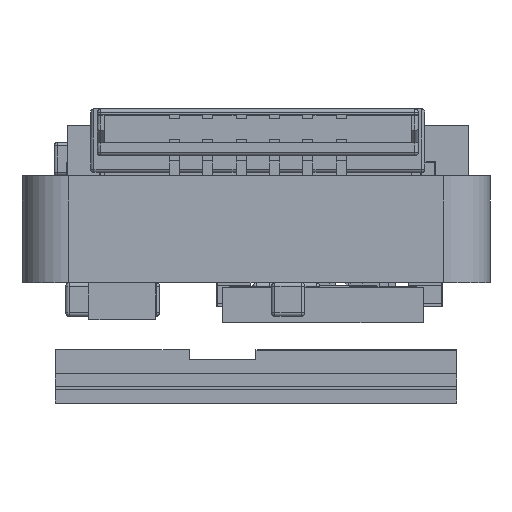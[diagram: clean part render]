
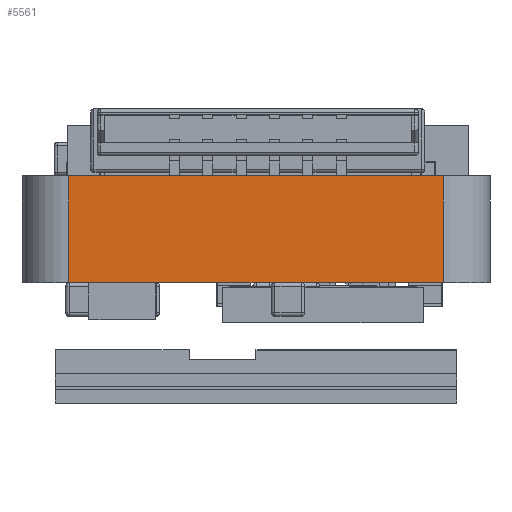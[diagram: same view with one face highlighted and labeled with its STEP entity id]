
A CAD part, left-side view. The second image highlights one B-rep face of the part: STEP entity #5561.
In plain terms, the highlighted planar face has unit normal (-1, 0, 0).
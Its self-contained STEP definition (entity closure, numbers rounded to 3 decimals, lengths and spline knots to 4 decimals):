
#4893=DIRECTION('',(0.,0.,1.));
#4894=VECTOR('',#4893,1.6);
#4895=CARTESIAN_POINT('',(0.2,-2.8001,-0.4773));
#4896=LINE('',#4895,#4894);
#5096=DIRECTION('',(0.,0.,-1.));
#5097=VECTOR('',#5096,1.6);
#5098=CARTESIAN_POINT('',(0.2,2.8,1.1227));
#5099=LINE('',#5098,#5097);
#5110=DIRECTION('',(0.,1.,0.));
#5111=VECTOR('',#5110,5.6001);
#5112=CARTESIAN_POINT('',(0.2,-2.8001,-0.4773));
#5113=LINE('',#5112,#5111);
#5117=DIRECTION('',(0.,-1.,0.));
#5118=VECTOR('',#5117,5.6001);
#5119=CARTESIAN_POINT('',(0.2,2.8,1.1227));
#5120=LINE('',#5119,#5118);
#5284=CARTESIAN_POINT('',(0.2,-2.8002,-0.4773));
#5285=VERTEX_POINT('',#5284);
#5286=CARTESIAN_POINT('',(0.2,-2.8001,1.1227));
#5287=VERTEX_POINT('',#5286);
#5332=CARTESIAN_POINT('',(0.2,2.8,1.1227));
#5333=CARTESIAN_POINT('',(0.2,2.8,-0.4773));
#5334=VERTEX_POINT('',#5332);
#5335=VERTEX_POINT('',#5333);
#5548=CARTESIAN_POINT('',(0.2,-2.8,0.));
#5549=DIRECTION('',(-1.,0.,0.));
#5550=DIRECTION('',(0.,1.,0.));
#5551=AXIS2_PLACEMENT_3D('',#5548,#5549,#5550);
#5552=PLANE('',#5551);
#5553=ORIENTED_EDGE('',*,*,#5361,.F.);
#5555=ORIENTED_EDGE('',*,*,#5554,.T.);
#5556=ORIENTED_EDGE('',*,*,#5538,.F.);
#5558=ORIENTED_EDGE('',*,*,#5557,.T.);
#5559=EDGE_LOOP('',(#5553,#5555,#5556,#5558));
#5560=FACE_OUTER_BOUND('',#5559,.F.);
#5561=ADVANCED_FACE('',(#5560),#5552,.T.);
#5361=EDGE_CURVE('',#5285,#5287,#4896,.T.);
#5538=EDGE_CURVE('',#5334,#5335,#5099,.T.);
#5554=EDGE_CURVE('',#5285,#5335,#5113,.T.);
#5557=EDGE_CURVE('',#5334,#5287,#5120,.T.);
